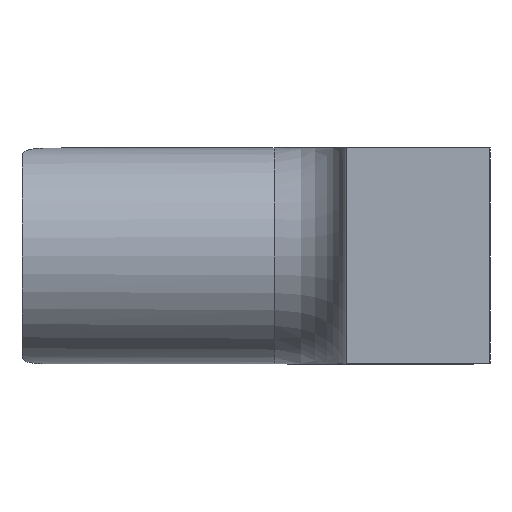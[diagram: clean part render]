
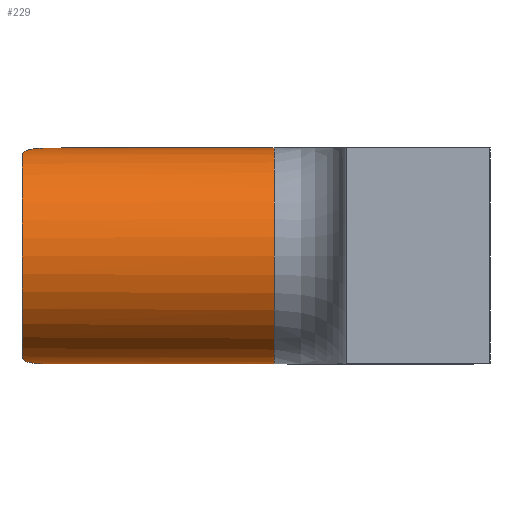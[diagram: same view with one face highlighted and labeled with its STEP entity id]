
A CAD part, left-side view. The second image highlights one B-rep face of the part: STEP entity #229.
In plain terms, the highlighted cylindrical face has radius 15 mm (diameter 30 mm), a partial arc.
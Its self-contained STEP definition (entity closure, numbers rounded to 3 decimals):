
#61=CARTESIAN_POINT('Vertex',(-15.803,61.71,14.979)) ;
#63=CARTESIAN_POINT('Vertex',(-15.803,61.71,-14.979)) ;
#67=CARTESIAN_POINT('Control Point',(-20.501,65.,-13.955)) ;
#68=CARTESIAN_POINT('Control Point',(-20.192,65.,-14.077)) ;
#69=CARTESIAN_POINT('Control Point',(-19.882,64.976,-14.189)) ;
#70=CARTESIAN_POINT('Control Point',(-19.571,64.928,-14.292)) ;
#71=CARTESIAN_POINT('Control Point',(-18.959,64.783,-14.477)) ;
#72=CARTESIAN_POINT('Control Point',(-18.365,64.538,-14.622)) ;
#73=CARTESIAN_POINT('Control Point',(-18.083,64.394,-14.684)) ;
#74=CARTESIAN_POINT('Control Point',(-17.537,64.059,-14.79)) ;
#75=CARTESIAN_POINT('Control Point',(-17.045,63.635,-14.863)) ;
#76=CARTESIAN_POINT('Control Point',(-16.82,63.407,-14.892)) ;
#77=CARTESIAN_POINT('Control Point',(-16.439,62.953,-14.933)) ;
#78=CARTESIAN_POINT('Control Point',(-16.128,62.446,-14.958)) ;
#79=CARTESIAN_POINT('Control Point',(-16.003,62.208,-14.967)) ;
#80=CARTESIAN_POINT('Control Point',(-15.895,61.963,-14.974)) ;
#81=CARTESIAN_POINT('Control Point',(-15.803,61.71,-14.979)) ;
#82=CARTESIAN_POINT('Vertex',(-20.501,65.,-13.955)) ;
#89=CARTESIAN_POINT('Vertex',(-20.501,65.,13.955)) ;
#93=CARTESIAN_POINT('Control Point',(-15.803,61.71,14.979)) ;
#94=CARTESIAN_POINT('Control Point',(-15.877,61.915,14.975)) ;
#95=CARTESIAN_POINT('Control Point',(-15.963,62.116,14.97)) ;
#96=CARTESIAN_POINT('Control Point',(-16.059,62.311,14.963)) ;
#97=CARTESIAN_POINT('Control Point',(-16.273,62.691,14.947)) ;
#98=CARTESIAN_POINT('Control Point',(-16.526,63.045,14.923)) ;
#99=CARTESIAN_POINT('Control Point',(-16.66,63.212,14.909)) ;
#100=CARTESIAN_POINT('Control Point',(-16.949,63.535,14.875)) ;
#101=CARTESIAN_POINT('Control Point',(-17.269,63.824,14.829)) ;
#102=CARTESIAN_POINT('Control Point',(-17.434,63.958,14.803)) ;
#103=CARTESIAN_POINT('Control Point',(-17.867,64.271,14.728)) ;
#104=CARTESIAN_POINT('Control Point',(-18.337,64.525,14.628)) ;
#105=CARTESIAN_POINT('Control Point',(-18.627,64.652,14.56)) ;
#106=CARTESIAN_POINT('Control Point',(-19.174,64.842,14.415)) ;
#107=CARTESIAN_POINT('Control Point',(-19.737,64.952,14.236)) ;
#108=CARTESIAN_POINT('Control Point',(-19.992,64.984,14.149)) ;
#109=CARTESIAN_POINT('Control Point',(-20.247,65.,14.055)) ;
#110=CARTESIAN_POINT('Control Point',(-20.501,65.,13.955)) ;
#146=CARTESIAN_POINT('Vertex',(-15.,59.505,-15.)) ;
#150=CARTESIAN_POINT('Control Point',(-15.,59.505,-15.)) ;
#151=CARTESIAN_POINT('Control Point',(-15.161,59.946,-15.)) ;
#152=CARTESIAN_POINT('Control Point',(-15.321,60.387,-14.998)) ;
#153=CARTESIAN_POINT('Control Point',(-15.482,60.828,-14.994)) ;
#154=CARTESIAN_POINT('Control Point',(-15.642,61.269,-14.987)) ;
#155=CARTESIAN_POINT('Control Point',(-15.803,61.71,-14.979)) ;
#158=CARTESIAN_POINT('Control Point',(-15.803,61.71,14.979)) ;
#159=CARTESIAN_POINT('Control Point',(-15.642,61.269,14.987)) ;
#160=CARTESIAN_POINT('Control Point',(-15.482,60.828,14.994)) ;
#161=CARTESIAN_POINT('Control Point',(-15.321,60.387,14.998)) ;
#162=CARTESIAN_POINT('Control Point',(-15.161,59.946,15.)) ;
#163=CARTESIAN_POINT('Control Point',(-15.,59.505,15.)) ;
#164=CARTESIAN_POINT('Vertex',(-15.,59.505,15.)) ;
#190=CARTESIAN_POINT('Axis2P3D Location',(-15.,65.,0.)) ;
#195=CARTESIAN_POINT('Line Origine',(-15.,65.,15.)) ;
#199=CARTESIAN_POINT('Vertex',(-15.,30.,15.)) ;
#202=CARTESIAN_POINT('Axis2P3D Location',(-15.,65.,0.)) ;
#207=CARTESIAN_POINT('Line Origine',(-15.,65.,-15.)) ;
#211=CARTESIAN_POINT('Vertex',(-15.,30.,-15.)) ;
#214=CARTESIAN_POINT('Axis2P3D Location',(-15.,30.,0.)) ;
#191=DIRECTION('Axis2P3D Direction',(0.,1.,0.)) ;
#192=DIRECTION('Axis2P3D XDirection',(0.,0.,-1.)) ;
#196=DIRECTION('Vector Direction',(0.,1.,0.)) ;
#203=DIRECTION('Axis2P3D Direction',(0.,1.,0.)) ;
#208=DIRECTION('Vector Direction',(0.,1.,0.)) ;
#215=DIRECTION('Axis2P3D Direction',(0.,1.,0.)) ;
#193=AXIS2_PLACEMENT_3D('Cylinder Axis2P3D',#190,#191,#192) ;
#204=AXIS2_PLACEMENT_3D('Circle Axis2P3D',#202,#203,$) ;
#216=AXIS2_PLACEMENT_3D('Circle Axis2P3D',#214,#215,$) ;
#220=ORIENTED_EDGE('',*,*,#201,.T.) ;
#221=ORIENTED_EDGE('',*,*,#166,.F.) ;
#222=ORIENTED_EDGE('',*,*,#111,.T.) ;
#223=ORIENTED_EDGE('',*,*,#206,.F.) ;
#224=ORIENTED_EDGE('',*,*,#84,.T.) ;
#225=ORIENTED_EDGE('',*,*,#156,.F.) ;
#226=ORIENTED_EDGE('',*,*,#213,.T.) ;
#227=ORIENTED_EDGE('',*,*,#218,.T.) ;
#197=VECTOR('Line Direction',#196,1.) ;
#209=VECTOR('Line Direction',#208,1.) ;
#229=ADVANCED_FACE('702-2',(#228),#194,.T.) ;
#66=B_SPLINE_CURVE_WITH_KNOTS('',5,(#67,#68,#69,#70,#71,#72,#73,#74,#75,#76,#77,#78,#79,#80,#81),.UNSPECIFIED.,.F.,.U.,(6,3,3,3,6),(0.,2.341,4.631,6.926,8.821),.UNSPECIFIED.) ;
#92=B_SPLINE_CURVE_WITH_KNOTS('',5,(#93,#94,#95,#96,#97,#98,#99,#100,#101,#102,#103,#104,#105,#106,#107,#108,#109,#110),.UNSPECIFIED.,.F.,.U.,(6,3,3,3,3,6),(0.,1.541,3.086,4.609,6.903,8.825),.UNSPECIFIED.) ;
#149=B_SPLINE_CURVE_WITH_KNOTS('',5,(#150,#151,#152,#153,#154,#155),.UNSPECIFIED.,.F.,.U.,(6,6),(68.723,72.138),.UNSPECIFIED.) ;
#157=B_SPLINE_CURVE_WITH_KNOTS('',5,(#158,#159,#160,#161,#162,#163),.UNSPECIFIED.,.F.,.U.,(6,6),(0.,3.415),.UNSPECIFIED.) ;
#205=CIRCLE('generated circle',#204,15.) ;
#217=CIRCLE('generated circle',#216,15.) ;
#194=CYLINDRICAL_SURFACE('generated cylinder',#193,15.) ;
#84=EDGE_CURVE('',#83,#64,#66,.T.) ;
#111=EDGE_CURVE('',#62,#90,#92,.T.) ;
#156=EDGE_CURVE('',#147,#64,#149,.T.) ;
#166=EDGE_CURVE('',#62,#165,#157,.T.) ;
#201=EDGE_CURVE('',#200,#165,#198,.T.) ;
#206=EDGE_CURVE('',#83,#90,#205,.T.) ;
#213=EDGE_CURVE('',#147,#212,#210,.F.) ;
#218=EDGE_CURVE('',#212,#200,#217,.T.) ;
#219=EDGE_LOOP('',(#220,#221,#222,#223,#224,#225,#226,#227)) ;
#228=FACE_OUTER_BOUND('',#219,.T.) ;
#198=LINE('Line',#195,#197) ;
#210=LINE('Line',#207,#209) ;
#62=VERTEX_POINT('',#61) ;
#64=VERTEX_POINT('',#63) ;
#83=VERTEX_POINT('',#82) ;
#90=VERTEX_POINT('',#89) ;
#147=VERTEX_POINT('',#146) ;
#165=VERTEX_POINT('',#164) ;
#200=VERTEX_POINT('',#199) ;
#212=VERTEX_POINT('',#211) ;
